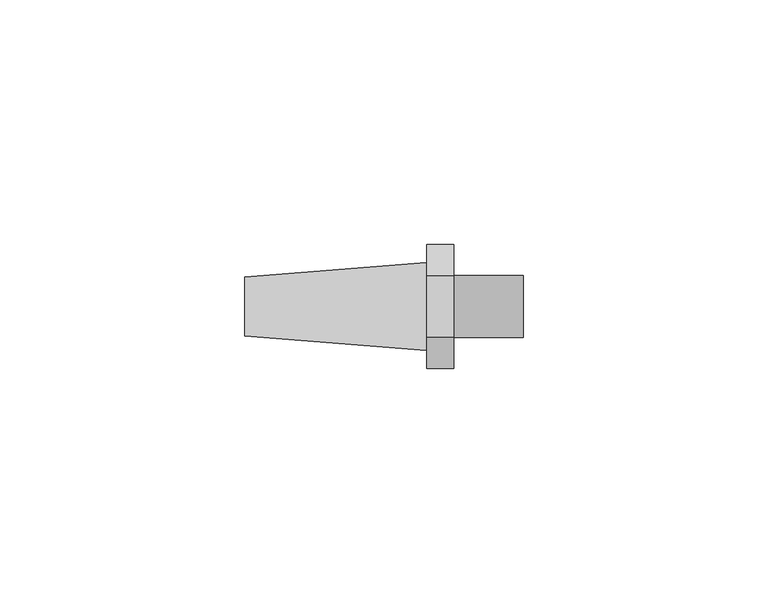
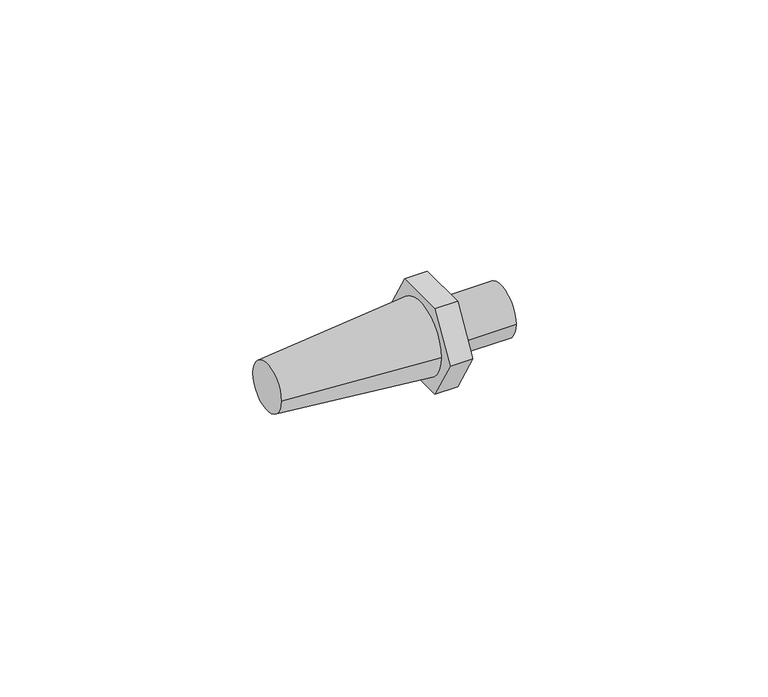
"""IFC4 building model written with IfcOpenShell, lengths in millimetres: pipe fitting geometry, 01011013 : Douilles coniques."""

from ifc_helpers import new_model, si_unit, frame, origin, place, context, project, spatial, polyline, circle_curve, source, transform, mapped, element, save
from ifc_brep_helpers import plane_surface, cylinder_surface, revolved_surface, advanced_brep


def pipe_fitting_e721a3dd(model_context):
    return source(origin(), model_context, "Body", "AdvancedBrep", [
        advanced_brep(
        [(-28.5, 6.0, 0.0), (-28.5, -6.0, 0.0), (8.75, 9.0, 0.0), (8.75, -9.0, 0.0)],
        [
            (0, 1, circle_curve(frame((-28.5, 0.0, 0.0), z_axis=(-1.0, 0.0, 0.0), x_axis=(0.0, 1.0, 0.0)), 6.0)),
            (1, 0, circle_curve(frame((-28.5, 0.0, 0.0), z_axis=(-1.0, 0.0, 0.0), x_axis=(0.0, -1.0, 0.0)), 6.0)),
            (2, 3, circle_curve(frame((8.75, 0.0, 0.0), z_axis=(1.0, 0.0, 0.0), x_axis=(0.0, -1.0, 0.0)), 9.0)),
            (3, 2, circle_curve(frame((8.75, 0.0, 0.0), z_axis=(1.0, 0.0, 0.0), x_axis=(0.0, 1.0, 0.0)), 9.0)),
            (3, 1),
            (0, 2),
        ],
        [
            plane_surface(frame((-28.5, 0.0, 0.0), z_axis=(-1.0, 0.0, 0.0), x_axis=(0.0, 0.0, -1.0))),
            plane_surface(frame((8.75, 0.0, 0.0), z_axis=(1.0, 0.0, 0.0), x_axis=(0.0, 0.0, -1.0))),
            revolved_surface(polyline([(-28.5, 6.0, 0.0), (8.75, 9.0, 0.0)]), (-103.0, 0.0, 0.0), (1.0, 0.0, 0.0)),
            revolved_surface(polyline([(-28.5, -6.0, 0.0), (8.75, -9.0, 0.0)]), (-103.0, 0.0, 0.0), (1.0, 0.0, 0.0)),
        ],
        [
            (0, [[1, 2]]),
            (1, [[3, 4]]),
            (2, [[-4, 5, -1, 6]]),
            (3, [[-3, -6, -2, -5]]),
        ],
    ),
        advanced_brep(
        [(14.25, -6.350853, 11.0), (14.25, -12.7017059, 0.0), (14.25, -6.350853, -11.0), (14.25, 6.350853, -11.0), (14.25, 12.7017059, 0.0), (14.25, 6.350853, 11.0), (14.25, -6.35, 0.0), (14.25, 6.35, 0.0), (8.75, -6.350853, 11.0), (8.75, 6.350853, 11.0), (8.75, 12.7017059, 0.0), (8.75, 6.350853, -11.0), (8.75, -6.350853, -11.0), (8.75, -12.7017059, 0.0), (28.5, -6.35, 0.0), (28.5, 6.35, 0.0)],
        [
            (0, 1),
            (1, 2),
            (2, 3),
            (3, 4),
            (4, 5),
            (5, 0),
            (6, 7, circle_curve(frame((14.25, 0.0, 0.0), z_axis=(-1.0, 0.0, 0.0), x_axis=(0.0, 1.0, 0.0)), 6.35)),
            (7, 6, circle_curve(frame((14.25, 0.0, 0.0), z_axis=(-1.0, 0.0, 0.0), x_axis=(0.0, 1.0, 0.0)), 6.35)),
            (8, 9),
            (9, 10),
            (10, 11),
            (11, 12),
            (12, 13),
            (13, 8),
            (0, 8),
            (13, 1),
            (12, 2),
            (11, 3),
            (10, 4),
            (9, 5),
            (14, 15, circle_curve(frame((28.5, 0.0, 0.0), z_axis=(1.0, 0.0, 0.0), x_axis=(0.0, 1.0, 0.0)), 6.35)),
            (15, 14, circle_curve(frame((28.5, 0.0, 0.0), z_axis=(1.0, 0.0, 0.0), x_axis=(0.0, 1.0, 0.0)), 6.35)),
            (15, 7),
            (6, 14),
        ],
        [
            plane_surface(frame((14.25, -6.350853, 11.0), z_axis=(1.0, 0.0, 0.0), x_axis=(0.0, -0.5000000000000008, -0.8660254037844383))),
            plane_surface(frame((8.75, -6.350853, 11.0), z_axis=(-1.0, 0.0, 0.0), x_axis=(0.0, 0.5000000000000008, 0.8660254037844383))),
            plane_surface(frame((14.25, -6.350853, 11.0), z_axis=(0.0, -0.8660254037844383, 0.5000000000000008), x_axis=(-1.0, 0.0, 0.0))),
            plane_surface(frame((14.25, -12.7017059, 0.0), z_axis=(0.0, -0.8660254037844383, -0.5000000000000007), x_axis=(-1.0, 0.0, 0.0))),
            plane_surface(frame((14.25, -6.350853, -11.0), z_axis=(0.0, 0.0, -1.0), x_axis=(-1.0, 0.0, 0.0))),
            plane_surface(frame((14.25, 6.350853, -11.0), z_axis=(0.0, 0.8660254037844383, -0.5000000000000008), x_axis=(-1.0, 0.0, 0.0))),
            plane_surface(frame((14.25, 12.7017059, 0.0), z_axis=(0.0, 0.8660254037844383, 0.5000000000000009), x_axis=(-1.0, 0.0, 0.0))),
            plane_surface(frame((14.25, 6.350853, 11.0), z_axis=(0.0, 0.0, 1.0), x_axis=(-1.0, 0.0, 0.0))),
            plane_surface(frame((28.5, 0.0, 0.0), z_axis=(1.0, 0.0, 0.0), x_axis=(0.0, 0.0, 1.0))),
            cylinder_surface(frame((14.25, 0.0, 0.0), z_axis=(-1.0, 0.0, 0.0), x_axis=(0.0, 1.0, 0.0)), 6.35),
        ],
        [
            (0, [[1, 2, 3, 4, 5, 6], [7, 8]]),
            (1, [[9, 10, 11, 12, 13, 14]]),
            (2, [[-1, 15, -14, 16]]),
            (3, [[-2, -16, -13, 17]]),
            (4, [[-3, -17, -12, 18]]),
            (5, [[-4, -18, -11, 19]]),
            (6, [[-5, -19, -10, 20]]),
            (7, [[-6, -20, -9, -15]]),
            (8, [[21, 22]]),
            (9, [[-22, 23, -7, 24]]),
            (9, [[-21, -24, -8, -23]]),
        ],
    ),
    ])


if __name__ == "__main__":
    model = new_model("IFC4")
    model_context = context("Model", 3, world=origin())
    ifc_project = project(units=[si_unit("LENGTHUNIT", "METRE", prefix="MILLI")], contexts=[model_context])
    site = spatial("IfcSite", under=ifc_project)
    building = spatial("IfcBuilding", under=site)
    placement = place(None, origin())
    pipe_fitting_shape = pipe_fitting_e721a3dd(model_context)
    element("IfcPipeFitting", 1, ObjectType="01011013 : Douilles coniques", at=placement, inside=building, context=model_context, shape_type="MappedRepresentation", body=[
        mapped(pipe_fitting_shape, transform((0.0, 0.0, 0.0), x_axis=(1.0, 0.0, 0.0), y_axis=(0.0, 1.0, 0.0), z_axis=(0.0, 0.0, 1.0))),
    ])
    save(model, "model.ifc")
